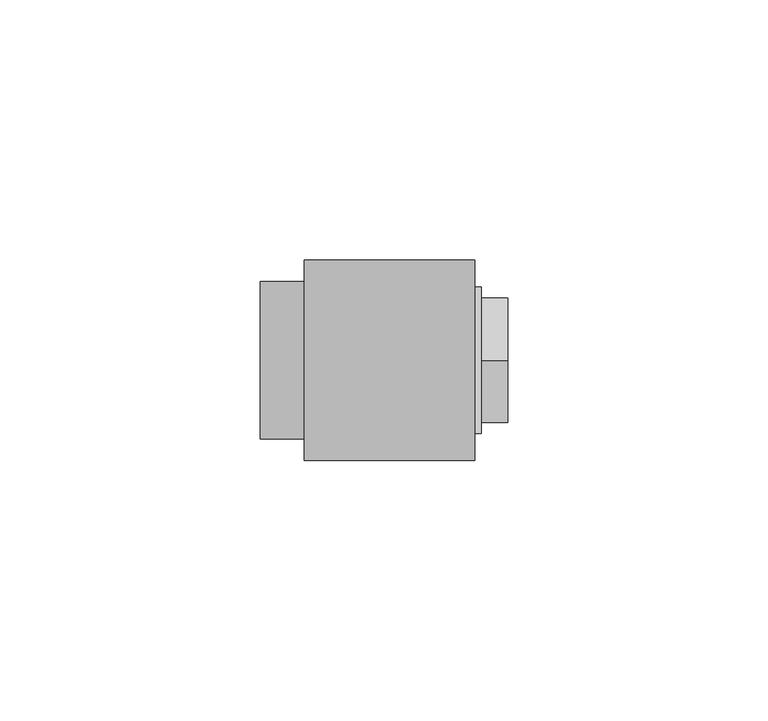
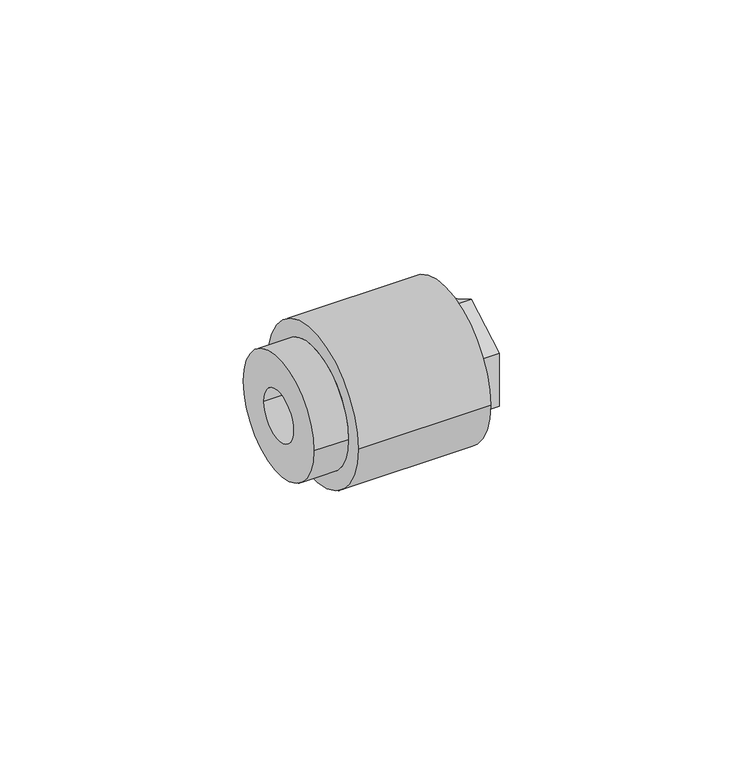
"""IFC4 building model written with IfcOpenShell, lengths in millimetres: pipe fitting geometry, Aquatherm - Fusion Outlet Transition Female : POTABLE BRASS - HEX."""

from ifc_helpers import new_model, si_unit, frame, origin, place, context, project, spatial, polyline, circle_curve, source, transform, mapped, element, save
from ifc_brep_helpers import plane_surface, cylinder_surface, revolved_surface, advanced_brep


def pipe_fitting_c74b36bd(model_context):
    return source(origin(), model_context, "Body", "AdvancedBrep", [
        advanced_brep(
        [(26.416, 9.525, 0.0), (26.416, -9.525, 0.0), (36.5363125, -9.525, 0.0), (36.5363125, 9.525, 0.0), (26.416, 10.31875, 0.0), (26.416, -10.31875, 0.0), (23.241, 10.31875, 0.0), (23.241, -10.31875, 0.0), (23.241, 6.35, 0.0), (23.241, -6.35, 0.0), (20.066, 6.35, 0.0), (20.066, -6.35, 0.0), (20.066, 15.113, 0.0), (20.066, -15.113, 0.0), (32.766, 15.113, 0.0), (32.766, -15.113, 0.0), (39.116, 10.31875, 0.0), (39.116, -10.31875, 0.0), (39.116, -11.938, 0.0), (39.116, -11.938, -6.8924075), (39.116, 0.0, -13.784815), (39.116, 11.938, -6.8924075), (39.116, 11.938, 0.0), (39.116, 11.938, 6.8924075), (39.116, 0.0, 13.784815), (39.116, -11.938, 6.8924075), (32.766, 14.097, 0.0), (32.766, -14.097, 0.0), (33.956625, 14.097, 0.0), (33.956625, -14.097, 0.0), (33.956625, 0.0, -13.784815), (33.956625, -11.938, -6.8924075), (33.956625, -11.938, 6.8924075), (33.956625, 0.0, 13.784815), (33.956625, 11.938, 6.8924075), (33.956625, 11.938, -6.8924075)],
        [
            (0, 1, circle_curve(frame((26.416, 0.0, 0.0), z_axis=(-1.0, 0.0, 0.0), x_axis=(0.0, -1.0, 0.0)), 9.525)),
            (1, 2),
            (2, 3, circle_curve(frame((36.5363125, 0.0, 0.0), z_axis=(1.0, 0.0, 0.0), x_axis=(0.0, -1.0, 0.0)), 9.525)),
            (3, 0),
            (1, 0, circle_curve(frame((26.416, 0.0, 0.0), z_axis=(-1.0, 0.0, 0.0), x_axis=(0.0, -1.0, 0.0)), 9.525)),
            (3, 2, circle_curve(frame((36.5363125, 0.0, 0.0), z_axis=(1.0, 0.0, 0.0), x_axis=(0.0, -1.0, 0.0)), 9.525)),
            (0, 4),
            (4, 5, circle_curve(frame((26.416, 0.0, 0.0), z_axis=(-1.0, 0.0, 0.0), x_axis=(0.0, -1.0, 0.0)), 10.31875)),
            (5, 1),
            (5, 4, circle_curve(frame((26.416, 0.0, 0.0), z_axis=(-1.0, 0.0, 0.0), x_axis=(0.0, -1.0, 0.0)), 10.31875)),
            (4, 6),
            (6, 7, circle_curve(frame((23.241, 0.0, 0.0), z_axis=(-1.0, 0.0, 0.0), x_axis=(0.0, -1.0, 0.0)), 10.31875)),
            (7, 5),
            (7, 6, circle_curve(frame((23.241, 0.0, 0.0), z_axis=(-1.0, 0.0, 0.0), x_axis=(0.0, -1.0, 0.0)), 10.31875)),
            (6, 8),
            (8, 9, circle_curve(frame((23.241, 0.0, 0.0), z_axis=(-1.0, 0.0, 0.0), x_axis=(0.0, -1.0, 0.0)), 6.35)),
            (9, 7),
            (9, 8, circle_curve(frame((23.241, 0.0, 0.0), z_axis=(-1.0, 0.0, 0.0), x_axis=(0.0, -1.0, 0.0)), 6.35)),
            (8, 10),
            (10, 11, circle_curve(frame((20.066, 0.0, 0.0), z_axis=(-1.0, 0.0, 0.0), x_axis=(0.0, -1.0, 0.0)), 6.35)),
            (11, 9),
            (11, 10, circle_curve(frame((20.066, 0.0, 0.0), z_axis=(-1.0, 0.0, 0.0), x_axis=(0.0, -1.0, 0.0)), 6.35)),
            (10, 12),
            (12, 13, circle_curve(frame((20.066, 0.0, 0.0), z_axis=(-1.0, 0.0, 0.0), x_axis=(0.0, -1.0, 0.0)), 15.113)),
            (13, 11),
            (13, 12, circle_curve(frame((20.066, 0.0, 0.0), z_axis=(-1.0, 0.0, 0.0), x_axis=(0.0, -1.0, 0.0)), 15.113)),
            (12, 14),
            (14, 15, circle_curve(frame((32.766, 0.0, 0.0), z_axis=(-1.0, 0.0, 0.0), x_axis=(0.0, -1.0, 0.0)), 15.113)),
            (15, 13),
            (15, 14, circle_curve(frame((32.766, 0.0, 0.0), z_axis=(-1.0, 0.0, 0.0), x_axis=(0.0, -1.0, 0.0)), 15.113)),
            (16, 17, circle_curve(frame((39.116, 0.0, 0.0), z_axis=(-1.0, 0.0, 0.0), x_axis=(0.0, -1.0, 0.0)), 10.31875)),
            (17, 18),
            (18, 19),
            (19, 20),
            (20, 21),
            (21, 22),
            (22, 16),
            (17, 16, circle_curve(frame((39.116, 0.0, 0.0), z_axis=(-1.0, 0.0, 0.0), x_axis=(0.0, -1.0, 0.0)), 10.31875)),
            (22, 23),
            (23, 24),
            (24, 25),
            (25, 18),
            (2, 17),
            (16, 3),
            (14, 26),
            (26, 27, circle_curve(frame((32.766, 0.0, 0.0), z_axis=(-1.0, 0.0, 0.0), x_axis=(0.0, -1.0, 0.0)), 14.097)),
            (27, 15),
            (27, 26, circle_curve(frame((32.766, 0.0, 0.0), z_axis=(-1.0, 0.0, 0.0), x_axis=(0.0, -1.0, 0.0)), 14.097)),
            (26, 28),
            (28, 29, circle_curve(frame((33.956625, 0.0, 0.0), z_axis=(-1.0, 0.0, 0.0), x_axis=(0.0, -1.0, 0.0)), 14.097)),
            (29, 27),
            (29, 28, circle_curve(frame((33.956625, 0.0, 0.0), z_axis=(-1.0, 0.0, 0.0), x_axis=(0.0, -1.0, 0.0)), 14.097)),
            (30, 31),
            (31, 32),
            (32, 33),
            (33, 34),
            (34, 35),
            (35, 30),
            (35, 21),
            (20, 30),
            (34, 23),
            (33, 24),
            (32, 25),
            (31, 19),
        ],
        [
            revolved_surface(polyline([(36.5363125, -9.525, 0.0), (26.416, -9.525, 0.0)]), (40.9492251, 0.0, 0.0), (1.0, 0.0, 0.0)),
            plane_surface(frame((26.416, 0.0, 0.0), z_axis=(-1.0, 0.0, 0.0), x_axis=(0.0, -1.0, 0.0))),
            revolved_surface(polyline([(26.416, -10.31875, 0.0), (23.241, -10.31875, 0.0)]), (40.9492251, 0.0, 0.0), (1.0, 0.0, 0.0)),
            plane_surface(frame((23.241, 0.0, 0.0), z_axis=(1.0, 0.0, 0.0), x_axis=(0.0, -1.0, 0.0))),
            revolved_surface(polyline([(23.241, -6.35, 0.0), (20.066, -6.35, 0.0)]), (40.9492251, 0.0, 0.0), (1.0, 0.0, 0.0)),
            plane_surface(frame((20.066, 0.0, 0.0), z_axis=(-1.0, 0.0, 0.0), x_axis=(0.0, -1.0, 0.0))),
            cylinder_surface(frame((40.9492251, 0.0, 0.0), z_axis=(1.0, 0.0, 0.0), x_axis=(0.0, -1.0, 0.0)), 15.113),
            plane_surface(frame((39.116, 0.0, 0.0), z_axis=(1.0, 0.0, 0.0), x_axis=(0.0, -1.0, 0.0))),
            revolved_surface(polyline([(39.116, -10.31875, 0.0), (36.5363125, -9.525, 0.0)]), (40.9492251, 0.0, 0.0), (1.0, 0.0, 0.0)),
            plane_surface(frame((32.766, 0.0, 0.0), z_axis=(1.0, 0.0, 0.0), x_axis=(0.0, -1.0, 0.0))),
            cylinder_surface(frame((40.9492251, 0.0, 0.0), z_axis=(1.0, 0.0, 0.0), x_axis=(0.0, -1.0, 0.0)), 14.097),
            plane_surface(frame((33.956625, 11.938, -6.8924075), z_axis=(1.0, 0.0, 0.0), x_axis=(0.0, 0.8660254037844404, 0.49999999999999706))),
            plane_surface(frame((33.956625, 0.0, -13.784815), z_axis=(0.0, 0.49999999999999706, -0.8660254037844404), x_axis=(1.0, 0.0, 0.0))),
            plane_surface(frame((33.956625, 11.938, -6.8924075), z_axis=(0.0, 1.0, 0.0), x_axis=(1.0, 0.0, 0.0))),
            plane_surface(frame((33.956625, 11.938, 6.8924075), z_axis=(0.0, 0.5000000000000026, 0.8660254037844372), x_axis=(1.0, 0.0, 0.0))),
            plane_surface(frame((33.956625, 0.0, 13.784815), z_axis=(0.0, -0.4999999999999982, 0.8660254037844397), x_axis=(1.0, 0.0, 0.0))),
            plane_surface(frame((33.956625, -11.938, 6.8924075), z_axis=(0.0, -1.0, 0.0), x_axis=(1.0, 0.0, 0.0))),
            plane_surface(frame((33.956625, -11.938, -6.8924075), z_axis=(0.0, -0.5000000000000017, -0.8660254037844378), x_axis=(1.0, 0.0, 0.0))),
        ],
        [
            (0, [[1, 2, 3, 4]]),
            (0, [[-2, 5, -4, 6]]),
            (1, [[-1, 7, 8, 9]]),
            (1, [[-5, -9, 10, -7]]),
            (2, [[-8, 11, 12, 13]]),
            (2, [[-10, -13, 14, -11]]),
            (3, [[-12, 15, 16, 17]]),
            (3, [[-14, -17, 18, -15]]),
            (4, [[-16, 19, 20, 21]]),
            (4, [[-18, -21, 22, -19]]),
            (5, [[-20, 23, 24, 25]]),
            (5, [[-22, -25, 26, -23]]),
            (6, [[-24, 27, 28, 29]]),
            (6, [[-26, -29, 30, -27]]),
            (7, [[31, 32, 33, 34, 35, 36, 37]]),
            (7, [[38, -37, 39, 40, 41, 42, -32]]),
            (8, [[-3, 43, -31, 44]]),
            (8, [[-6, -44, -38, -43]]),
            (9, [[-28, 45, 46, 47]]),
            (9, [[-30, -47, 48, -45]]),
            (10, [[-46, 49, 50, 51]]),
            (10, [[-48, -51, 52, -49]]),
            (11, [[-50, -52], [53, 54, 55, 56, 57, 58]]),
            (12, [[-58, 59, -35, 60]]),
            (13, [[-57, 61, -39, -36, -59]]),
            (14, [[-56, 62, -40, -61]]),
            (15, [[-55, 63, -41, -62]]),
            (16, [[-54, 64, -33, -42, -63]]),
            (17, [[-53, -60, -34, -64]]),
        ],
    ),
        advanced_brep(
        [(-8.5124324, 15.113, 0.0), (-8.5124324, -15.113, 0.0), (-8.5124324, 6.35, 0.0), (-8.5124324, -6.35, 0.0), (20.066, 15.113, 0.0), (20.066, -15.113, 0.0), (20.066, 6.35, 0.0), (20.066, -6.35, 0.0), (0.0, 15.113, 0.0), (0.0, -15.113, 0.0), (32.766, 19.304, 0.0), (32.766, -19.304, 0.0), (32.766, 15.113, 0.0), (32.766, -15.113, 0.0), (0.0, 19.304, 0.0), (0.0, -19.304, 0.0)],
        [
            (0, 1, circle_curve(frame((-8.5124324, 0.0, 0.0), z_axis=(-1.0, 0.0, 0.0), x_axis=(0.0, -1.0, 0.0)), 15.113)),
            (1, 0, circle_curve(frame((-8.5124324, 0.0, 0.0), z_axis=(-1.0, 0.0, 0.0), x_axis=(0.0, -1.0, 0.0)), 15.113)),
            (2, 3, circle_curve(frame((-8.5124324, 0.0, 0.0), z_axis=(1.0, 0.0, 0.0), x_axis=(0.0, -1.0, 0.0)), 6.35)),
            (3, 2, circle_curve(frame((-8.5124324, 0.0, 0.0), z_axis=(1.0, 0.0, 0.0), x_axis=(0.0, -1.0, 0.0)), 6.35)),
            (4, 5, circle_curve(frame((20.066, 0.0, 0.0), z_axis=(1.0, 0.0, 0.0), x_axis=(0.0, -1.0, 0.0)), 15.113)),
            (5, 4, circle_curve(frame((20.066, 0.0, 0.0), z_axis=(1.0, 0.0, 0.0), x_axis=(0.0, -1.0, 0.0)), 15.113)),
            (6, 7, circle_curve(frame((20.066, 0.0, 0.0), z_axis=(-1.0, 0.0, 0.0), x_axis=(0.0, -1.0, 0.0)), 6.35)),
            (7, 6, circle_curve(frame((20.066, 0.0, 0.0), z_axis=(-1.0, 0.0, 0.0), x_axis=(0.0, -1.0, 0.0)), 6.35)),
            (2, 6),
            (7, 3),
            (0, 8),
            (8, 9, circle_curve(frame((0.0, 0.0, 0.0), z_axis=(-1.0, 0.0, 0.0), x_axis=(0.0, -1.0, 0.0)), 15.113)),
            (9, 1),
            (9, 8, circle_curve(frame((0.0, 0.0, 0.0), z_axis=(-1.0, 0.0, 0.0), x_axis=(0.0, -1.0, 0.0)), 15.113)),
            (10, 11, circle_curve(frame((32.766, 0.0, 0.0), z_axis=(1.0, 0.0, 0.0), x_axis=(0.0, -1.0, 0.0)), 19.304)),
            (11, 10, circle_curve(frame((32.766, 0.0, 0.0), z_axis=(1.0, 0.0, 0.0), x_axis=(0.0, -1.0, 0.0)), 19.304)),
            (12, 13, circle_curve(frame((32.766, 0.0, 0.0), z_axis=(-1.0, 0.0, 0.0), x_axis=(0.0, -1.0, 0.0)), 15.113)),
            (13, 12, circle_curve(frame((32.766, 0.0, 0.0), z_axis=(-1.0, 0.0, 0.0), x_axis=(0.0, -1.0, 0.0)), 15.113)),
            (14, 15, circle_curve(frame((0.0, 0.0, 0.0), z_axis=(-1.0, 0.0, 0.0), x_axis=(0.0, -1.0, 0.0)), 19.304)),
            (15, 14, circle_curve(frame((0.0, 0.0, 0.0), z_axis=(-1.0, 0.0, 0.0), x_axis=(0.0, -1.0, 0.0)), 19.304)),
            (13, 5),
            (4, 12),
            (11, 15),
            (14, 10),
        ],
        [
            plane_surface(frame((-8.5124324, -6.35, 0.0), z_axis=(-1.0, 0.0, 0.0), x_axis=(0.0, 0.0, -1.0))),
            plane_surface(frame((20.066, -6.35, 0.0), z_axis=(1.0, 0.0, 0.0), x_axis=(0.0, 0.0, 1.0))),
            revolved_surface(polyline([(20.066, -6.35, 0.0), (-8.512432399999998, -6.35, 0.0)]), (20.066, 0.0, 0.0), (1.0, 0.0, 0.0)),
            cylinder_surface(frame((0.0, 0.0, 0.0), z_axis=(-1.0, 0.0, 0.0), x_axis=(0.0, -1.0, 0.0)), 15.113),
            plane_surface(frame((32.766, -15.113, 0.0), z_axis=(1.0, 0.0, 0.0), x_axis=(0.0, 0.0, 1.0))),
            plane_surface(frame((0.0, -15.113, 0.0), z_axis=(-1.0, 0.0, 0.0), x_axis=(0.0, 0.0, -1.0))),
            revolved_surface(polyline([(32.766, -15.113, 0.0), (20.066, -15.113, 0.0)]), (32.766, 0.0, 0.0), (1.0, 0.0, 0.0)),
            cylinder_surface(frame((0.0, 0.0, 0.0), z_axis=(-1.0, 0.0, 0.0), x_axis=(0.0, -1.0, 0.0)), 19.304),
        ],
        [
            (0, [[1, 2], [3, 4]]),
            (1, [[5, 6], [7, 8]]),
            (2, [[-3, 9, -8, 10]]),
            (2, [[-4, -10, -7, -9]]),
            (3, [[-1, 11, 12, 13]]),
            (3, [[-2, -13, 14, -11]]),
            (4, [[15, 16], [17, 18]]),
            (5, [[19, 20], [-12, -14]]),
            (6, [[-18, 21, -5, 22]]),
            (6, [[-17, -22, -6, -21]]),
            (7, [[-16, 23, -19, 24]]),
            (7, [[-15, -24, -20, -23]]),
        ],
    ),
    ])


if __name__ == "__main__":
    model = new_model("IFC4")
    model_context = context("Model", 3, world=origin())
    ifc_project = project(units=[si_unit("LENGTHUNIT", "METRE", prefix="MILLI")], contexts=[model_context])
    site = spatial("IfcSite", under=ifc_project)
    building = spatial("IfcBuilding", under=site)
    placement = place(None, origin())
    pipe_fitting_shape = pipe_fitting_c74b36bd(model_context)
    element("IfcPipeFitting", 1, ObjectType="Aquatherm - Fusion Outlet Transition Female : POTABLE BRASS - HEX", at=placement, inside=building, context=model_context, shape_type="MappedRepresentation", body=[
        mapped(pipe_fitting_shape, transform((0.0, 0.0, 0.0), x_axis=(1.0, 0.0, 0.0), y_axis=(0.0, 1.0, 0.0), z_axis=(0.0, 0.0, 1.0))),
    ])
    save(model, "model.ifc")
